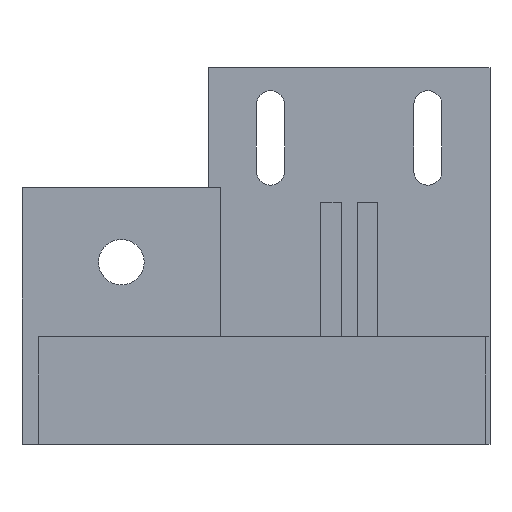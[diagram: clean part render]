
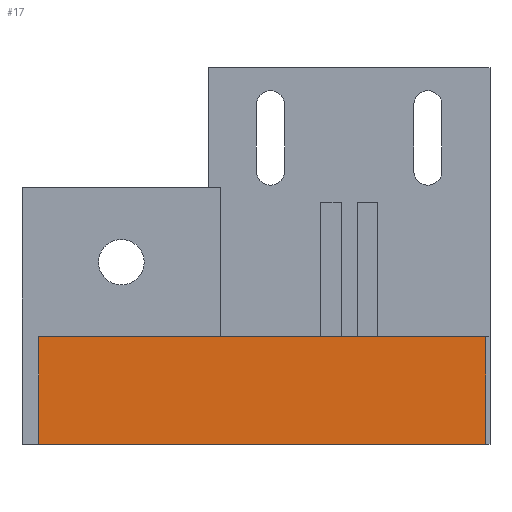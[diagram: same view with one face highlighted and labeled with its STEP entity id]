
A CAD part, left-side view. The second image highlights one B-rep face of the part: STEP entity #17.
In plain terms, the highlighted planar face has unit normal (-1, 0, 0).
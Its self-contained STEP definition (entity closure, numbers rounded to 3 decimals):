
#17 = ADVANCED_FACE('',(#18),#32,.F.);
#18 = FACE_BOUND('',#19,.F.);
#19 = EDGE_LOOP('',(#20,#55,#83,#111));
#20 = ORIENTED_EDGE('',*,*,#21,.F.);
#21 = EDGE_CURVE('',#22,#24,#26,.T.);
#22 = VERTEX_POINT('',#23);
#23 = CARTESIAN_POINT('',(0.,0.5,0.));
#24 = VERTEX_POINT('',#25);
#25 = CARTESIAN_POINT('',(0.,0.5,13.));
#26 = SURFACE_CURVE('',#27,(#31,#43),.PCURVE_S1.);
#27 = LINE('',#28,#29);
#28 = CARTESIAN_POINT('',(0.,0.5,0.));
#29 = VECTOR('',#30,1.);
#30 = DIRECTION('',(0.,0.,1.));
#31 = PCURVE('',#32,#37);
#32 = PLANE('',#33);
#33 = AXIS2_PLACEMENT_3D('',#34,#35,#36);
#34 = CARTESIAN_POINT('',(0.,0.5,0.));
#35 = DIRECTION('',(1.,0.,0.));
#36 = DIRECTION('',(0.,0.,1.));
#37 = DEFINITIONAL_REPRESENTATION('',(#38),#42);
#38 = LINE('',#39,#40);
#39 = CARTESIAN_POINT('',(0.,0.));
#40 = VECTOR('',#41,1.);
#41 = DIRECTION('',(1.,0.));
#42 = ( GEOMETRIC_REPRESENTATION_CONTEXT(2) 
PARAMETRIC_REPRESENTATION_CONTEXT() REPRESENTATION_CONTEXT('2D SPACE',''
  ) );
#43 = PCURVE('',#44,#49);
#44 = PLANE('',#45);
#45 = AXIS2_PLACEMENT_3D('',#46,#47,#48);
#46 = CARTESIAN_POINT('',(0.,0.5,0.));
#47 = DIRECTION('',(0.,1.,0.));
#48 = DIRECTION('',(0.,0.,1.));
#49 = DEFINITIONAL_REPRESENTATION('',(#50),#54);
#50 = LINE('',#51,#52);
#51 = CARTESIAN_POINT('',(0.,0.));
#52 = VECTOR('',#53,1.);
#53 = DIRECTION('',(1.,0.));
#54 = ( GEOMETRIC_REPRESENTATION_CONTEXT(2) 
PARAMETRIC_REPRESENTATION_CONTEXT() REPRESENTATION_CONTEXT('2D SPACE',''
  ) );
#55 = ORIENTED_EDGE('',*,*,#56,.T.);
#56 = EDGE_CURVE('',#22,#57,#59,.T.);
#57 = VERTEX_POINT('',#58);
#58 = CARTESIAN_POINT('',(0.,54.5,0.));
#59 = SURFACE_CURVE('',#60,(#64,#71),.PCURVE_S1.);
#60 = LINE('',#61,#62);
#61 = CARTESIAN_POINT('',(0.,0.5,0.));
#62 = VECTOR('',#63,1.);
#63 = DIRECTION('',(0.,1.,0.));
#64 = PCURVE('',#32,#65);
#65 = DEFINITIONAL_REPRESENTATION('',(#66),#70);
#66 = LINE('',#67,#68);
#67 = CARTESIAN_POINT('',(0.,0.));
#68 = VECTOR('',#69,1.);
#69 = DIRECTION('',(0.,-1.));
#70 = ( GEOMETRIC_REPRESENTATION_CONTEXT(2) 
PARAMETRIC_REPRESENTATION_CONTEXT() REPRESENTATION_CONTEXT('2D SPACE',''
  ) );
#71 = PCURVE('',#72,#77);
#72 = PLANE('',#73);
#73 = AXIS2_PLACEMENT_3D('',#74,#75,#76);
#74 = CARTESIAN_POINT('',(0.,0.5,0.));
#75 = DIRECTION('',(0.,0.,1.));
#76 = DIRECTION('',(1.,0.,0.));
#77 = DEFINITIONAL_REPRESENTATION('',(#78),#82);
#78 = LINE('',#79,#80);
#79 = CARTESIAN_POINT('',(0.,0.));
#80 = VECTOR('',#81,1.);
#81 = DIRECTION('',(0.,1.));
#82 = ( GEOMETRIC_REPRESENTATION_CONTEXT(2) 
PARAMETRIC_REPRESENTATION_CONTEXT() REPRESENTATION_CONTEXT('2D SPACE',''
  ) );
#83 = ORIENTED_EDGE('',*,*,#84,.T.);
#84 = EDGE_CURVE('',#57,#85,#87,.T.);
#85 = VERTEX_POINT('',#86);
#86 = CARTESIAN_POINT('',(0.,54.5,13.));
#87 = SURFACE_CURVE('',#88,(#92,#99),.PCURVE_S1.);
#88 = LINE('',#89,#90);
#89 = CARTESIAN_POINT('',(0.,54.5,0.));
#90 = VECTOR('',#91,1.);
#91 = DIRECTION('',(0.,0.,1.));
#92 = PCURVE('',#32,#93);
#93 = DEFINITIONAL_REPRESENTATION('',(#94),#98);
#94 = LINE('',#95,#96);
#95 = CARTESIAN_POINT('',(0.,-54.));
#96 = VECTOR('',#97,1.);
#97 = DIRECTION('',(1.,0.));
#98 = ( GEOMETRIC_REPRESENTATION_CONTEXT(2) 
PARAMETRIC_REPRESENTATION_CONTEXT() REPRESENTATION_CONTEXT('2D SPACE',''
  ) );
#99 = PCURVE('',#100,#105);
#100 = PLANE('',#101);
#101 = AXIS2_PLACEMENT_3D('',#102,#103,#104);
#102 = CARTESIAN_POINT('',(0.,54.5,0.));
#103 = DIRECTION('',(0.,1.,0.));
#104 = DIRECTION('',(0.,0.,1.));
#105 = DEFINITIONAL_REPRESENTATION('',(#106),#110);
#106 = LINE('',#107,#108);
#107 = CARTESIAN_POINT('',(0.,0.));
#108 = VECTOR('',#109,1.);
#109 = DIRECTION('',(1.,0.));
#110 = ( GEOMETRIC_REPRESENTATION_CONTEXT(2) 
PARAMETRIC_REPRESENTATION_CONTEXT() REPRESENTATION_CONTEXT('2D SPACE',''
  ) );
#111 = ORIENTED_EDGE('',*,*,#112,.F.);
#112 = EDGE_CURVE('',#24,#85,#113,.T.);
#113 = SURFACE_CURVE('',#114,(#118,#125),.PCURVE_S1.);
#114 = LINE('',#115,#116);
#115 = CARTESIAN_POINT('',(0.,0.5,13.));
#116 = VECTOR('',#117,1.);
#117 = DIRECTION('',(0.,1.,0.));
#118 = PCURVE('',#32,#119);
#119 = DEFINITIONAL_REPRESENTATION('',(#120),#124);
#120 = LINE('',#121,#122);
#121 = CARTESIAN_POINT('',(13.,0.));
#122 = VECTOR('',#123,1.);
#123 = DIRECTION('',(0.,-1.));
#124 = ( GEOMETRIC_REPRESENTATION_CONTEXT(2) 
PARAMETRIC_REPRESENTATION_CONTEXT() REPRESENTATION_CONTEXT('2D SPACE',''
  ) );
#125 = PCURVE('',#126,#131);
#126 = PLANE('',#127);
#127 = AXIS2_PLACEMENT_3D('',#128,#129,#130);
#128 = CARTESIAN_POINT('',(0.,0.5,13.));
#129 = DIRECTION('',(0.,0.,1.));
#130 = DIRECTION('',(1.,0.,0.));
#131 = DEFINITIONAL_REPRESENTATION('',(#132),#136);
#132 = LINE('',#133,#134);
#133 = CARTESIAN_POINT('',(0.,0.));
#134 = VECTOR('',#135,1.);
#135 = DIRECTION('',(0.,1.));
#136 = ( GEOMETRIC_REPRESENTATION_CONTEXT(2) 
PARAMETRIC_REPRESENTATION_CONTEXT() REPRESENTATION_CONTEXT('2D SPACE',''
  ) );
